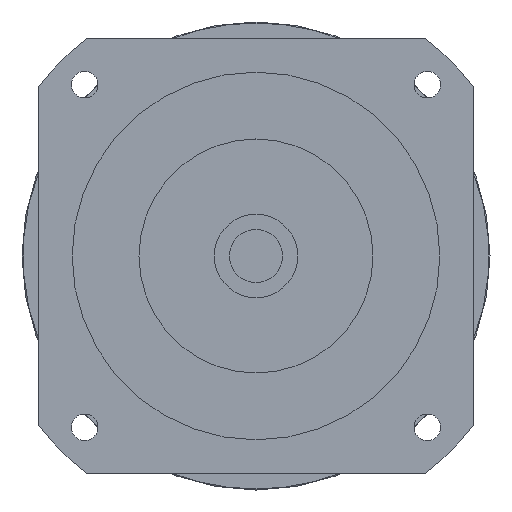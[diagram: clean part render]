
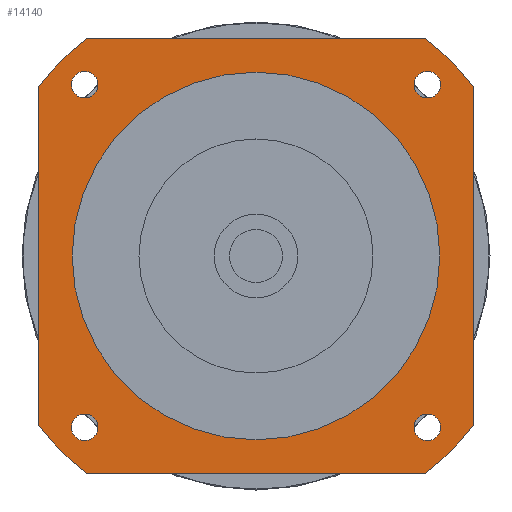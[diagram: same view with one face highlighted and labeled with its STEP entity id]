
A CAD part, left-side view. The second image highlights one B-rep face of the part: STEP entity #14140.
In plain terms, the highlighted planar face has unit normal (-1, 0, 0) as drawn and (0, 0, -1) by its records, which use the part's own axes.
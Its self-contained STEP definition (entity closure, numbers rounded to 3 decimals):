
#12440=CARTESIAN_POINT('',(55.265,-51.265,-62.7));
#12450=VERTEX_POINT('',#12440);
#12480=CARTESIAN_POINT('',(51.265,-51.265,-62.7));
#12490=DIRECTION('',(0.,0.,-1.));
#12500=DIRECTION('',(1.,0.,0.));
#12510=AXIS2_PLACEMENT_3D('',#12480,#12490,#12500);
#12520=CIRCLE('',#12510,4.);
#12530=CARTESIAN_POINT('',(47.265,-51.265,-62.7));
#12540=VERTEX_POINT('',#12530);
#12550=EDGE_CURVE('',#12540,#12450,#12520,.T.);
#12700=CARTESIAN_POINT('',(65.,65.,-62.7));
#12710=DIRECTION('',(0.,0.,-1.));
#12720=DIRECTION('',(1.,0.,0.));
#12730=AXIS2_PLACEMENT_3D('',#12700,#12710,#12720);
#12740=PLANE('',#12730);
#12750=CARTESIAN_POINT('',(-51.265,-51.265,-62.7));
#12760=DIRECTION('',(0.,0.,-1.));
#12770=DIRECTION('',(0.,-1.,0.));
#12780=AXIS2_PLACEMENT_3D('',#12750,#12760,#12770);
#12790=CIRCLE('',#12780,4.);
#12800=CARTESIAN_POINT('',(-51.265,-55.265,-62.7));
#12810=VERTEX_POINT('',#12800);
#12820=CARTESIAN_POINT('',(-51.265,-47.265,-62.7));
#12830=VERTEX_POINT('',#12820);
#12840=EDGE_CURVE('',#12810,#12830,#12790,.T.);
#12850=ORIENTED_EDGE('',*,*,#12840,.F.);
#12860=EDGE_CURVE('',#12830,#12810,#12790,.T.);
#12870=ORIENTED_EDGE('',*,*,#12860,.F.);
#12880=EDGE_LOOP('',(#12870,#12850));
#12890=FACE_BOUND('',#12880,.T.);
#12900=CARTESIAN_POINT('',(-51.265,51.265,-62.7));
#12910=DIRECTION('',(0.,0.,-1.));
#12920=DIRECTION('',(-1.,0.,0.));
#12930=AXIS2_PLACEMENT_3D('',#12900,#12910,#12920);
#12940=CIRCLE('',#12930,4.);
#12950=CARTESIAN_POINT('',(-55.265,51.265,-62.7));
#12960=VERTEX_POINT('',#12950);
#12970=CARTESIAN_POINT('',(-47.265,51.265,-62.7));
#12980=VERTEX_POINT('',#12970);
#12990=EDGE_CURVE('',#12960,#12980,#12940,.T.);
#13000=ORIENTED_EDGE('',*,*,#12990,.F.);
#13010=EDGE_CURVE('',#12980,#12960,#12940,.T.);
#13020=ORIENTED_EDGE('',*,*,#13010,.F.);
#13030=EDGE_LOOP('',(#13020,#13000));
#13040=FACE_BOUND('',#13030,.T.);
#13050=CARTESIAN_POINT('',(51.265,51.265,-62.7));
#13060=DIRECTION('',(0.,0.,-1.));
#13070=DIRECTION('',(0.,1.,0.));
#13080=AXIS2_PLACEMENT_3D('',#13050,#13060,#13070);
#13090=CIRCLE('',#13080,4.);
#13100=CARTESIAN_POINT('',(51.265,55.265,-62.7));
#13110=VERTEX_POINT('',#13100);
#13120=CARTESIAN_POINT('',(51.265,47.265,-62.7));
#13130=VERTEX_POINT('',#13120);
#13140=EDGE_CURVE('',#13110,#13130,#13090,.T.);
#13150=ORIENTED_EDGE('',*,*,#13140,.F.);
#13160=EDGE_CURVE('',#13130,#13110,#13090,.T.);
#13170=ORIENTED_EDGE('',*,*,#13160,.F.);
#13180=EDGE_LOOP('',(#13170,#13150));
#13190=FACE_BOUND('',#13180,.T.);
#13200=CARTESIAN_POINT('',(0.,0.,
-62.7));
#13210=DIRECTION('',(0.,0.,1.));
#13220=DIRECTION('',(0.,1.,0.));
#13230=AXIS2_PLACEMENT_3D('',#13200,#13210,#13220);
#13240=CIRCLE('',#13230,55.);
#13250=CARTESIAN_POINT('',(-55.,0.,-62.7));
#13260=VERTEX_POINT('',#13250);
#13270=CARTESIAN_POINT('',(55.,0.,-62.7));
#13280=VERTEX_POINT('',#13270);
#13290=EDGE_CURVE('',#13260,#13280,#13240,.T.);
#13300=ORIENTED_EDGE('',*,*,#13290,.T.);
#13310=CARTESIAN_POINT('',(0.,55.,-62.7));
#13320=VERTEX_POINT('',#13310);
#13330=EDGE_CURVE('',#13320,#13260,#13240,.T.);
#13340=ORIENTED_EDGE('',*,*,#13330,.T.);
#13350=EDGE_CURVE('',#13280,#13320,#13240,.T.);
#13360=ORIENTED_EDGE('',*,*,#13350,.T.);
#13370=EDGE_LOOP('',(#13360,#13340,#13300));
#13380=FACE_BOUND('',#13370,.T.);
#13390=CARTESIAN_POINT('',(-65.,65.,-62.7));
#13400=DIRECTION('',(1.,0.,0.));
#13410=VECTOR('',#13400,1000.);
#13420=LINE('',#13390,#13410);
#13430=CARTESIAN_POINT('',(-50.806,65.,-62.7));
#13440=VERTEX_POINT('',#13430);
#13450=CARTESIAN_POINT('',(50.806,65.,-62.7));
#13460=VERTEX_POINT('',#13450);
#13470=EDGE_CURVE('',#13440,#13460,#13420,.T.);
#13480=ORIENTED_EDGE('',*,*,#13470,.T.);
#13490=CARTESIAN_POINT('',(0.,0.,
-62.7));
#13500=DIRECTION('',(0.,0.,-1.));
#13510=DIRECTION('',(1.,0.,0.));
#13520=AXIS2_PLACEMENT_3D('',#13490,#13500,#13510);
#13530=CIRCLE('',#13520,82.5);
#13540=CARTESIAN_POINT('',(-65.,50.806,-62.7));
#13550=VERTEX_POINT('',#13540);
#13560=EDGE_CURVE('',#13550,#13440,#13530,.T.);
#13570=ORIENTED_EDGE('',*,*,#13560,.T.);
#13580=CARTESIAN_POINT('',(-65.,-65.,-62.7));
#13590=DIRECTION('',(0.,1.,0.));
#13600=VECTOR('',#13590,1000.);
#13610=LINE('',#13580,#13600);
#13620=CARTESIAN_POINT('',(-65.,-50.806,-62.7));
#13630=VERTEX_POINT('',#13620);
#13640=EDGE_CURVE('',#13630,#13550,#13610,.T.);
#13650=ORIENTED_EDGE('',*,*,#13640,.T.);
#13660=CARTESIAN_POINT('',(0.,0.,
-62.7));
#13670=DIRECTION('',(0.,0.,-1.));
#13680=DIRECTION('',(1.,0.,0.));
#13690=AXIS2_PLACEMENT_3D('',#13660,#13670,#13680);
#13700=CIRCLE('',#13690,82.5);
#13710=CARTESIAN_POINT('',(-50.806,-65.,-62.7));
#13720=VERTEX_POINT('',#13710);
#13730=EDGE_CURVE('',#13720,#13630,#13700,.T.);
#13740=ORIENTED_EDGE('',*,*,#13730,.T.);
#13750=CARTESIAN_POINT('',(65.,-65.,-62.7));
#13760=DIRECTION('',(-1.,0.,0.));
#13770=VECTOR('',#13760,1000.);
#13780=LINE('',#13750,#13770);
#13790=CARTESIAN_POINT('',(50.806,-65.,-62.7));
#13800=VERTEX_POINT('',#13790);
#13810=EDGE_CURVE('',#13800,#13720,#13780,.T.);
#13820=ORIENTED_EDGE('',*,*,#13810,.T.);
#13830=CARTESIAN_POINT('',(0.,0.,
-62.7));
#13840=DIRECTION('',(0.,0.,-1.));
#13850=DIRECTION('',(1.,0.,0.));
#13860=AXIS2_PLACEMENT_3D('',#13830,#13840,#13850);
#13870=CIRCLE('',#13860,82.5);
#13880=CARTESIAN_POINT('',(65.,-50.806,-62.7));
#13890=VERTEX_POINT('',#13880);
#13900=EDGE_CURVE('',#13890,#13800,#13870,.T.);
#13910=ORIENTED_EDGE('',*,*,#13900,.T.);
#13920=CARTESIAN_POINT('',(65.,65.,-62.7));
#13930=DIRECTION('',(0.,-1.,0.));
#13940=VECTOR('',#13930,1000.);
#13950=LINE('',#13920,#13940);
#13960=CARTESIAN_POINT('',(65.,50.806,-62.7));
#13970=VERTEX_POINT('',#13960);
#13980=EDGE_CURVE('',#13970,#13890,#13950,.T.);
#13990=ORIENTED_EDGE('',*,*,#13980,.T.);
#14000=CARTESIAN_POINT('',(0.,0.,
-62.7));
#14010=DIRECTION('',(0.,0.,-1.));
#14020=DIRECTION('',(1.,0.,0.));
#14030=AXIS2_PLACEMENT_3D('',#14000,#14010,#14020);
#14040=CIRCLE('',#14030,82.5);
#14050=EDGE_CURVE('',#13460,#13970,#14040,.T.);
#14060=ORIENTED_EDGE('',*,*,#14050,.T.);
#14070=EDGE_LOOP('',(#14060,#13990,#13910,#13820,#13740,#13650,#13570,
#13480));
#14080=FACE_OUTER_BOUND('',#14070,.T.);
#14090=EDGE_CURVE('',#12450,#12540,#12520,.T.);
#14100=ORIENTED_EDGE('',*,*,#14090,.F.);
#14110=ORIENTED_EDGE('',*,*,#12550,.F.);
#14120=EDGE_LOOP('',(#14110,#14100));
#14130=FACE_BOUND('',#14120,.T.);
#14140=ADVANCED_FACE('',(#12890,#13040,#13190,#13380,#14080,#14130),
#12740,.T.);
